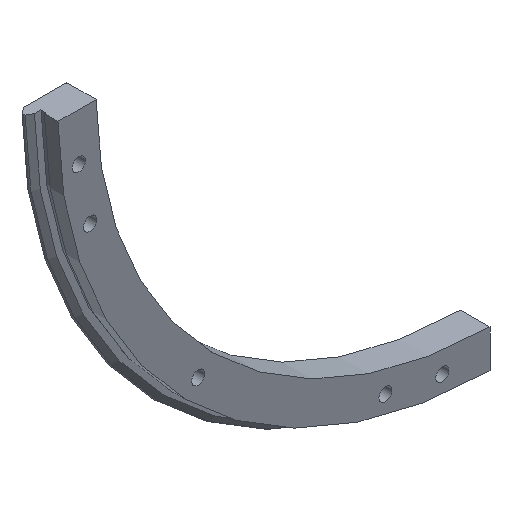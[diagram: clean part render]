
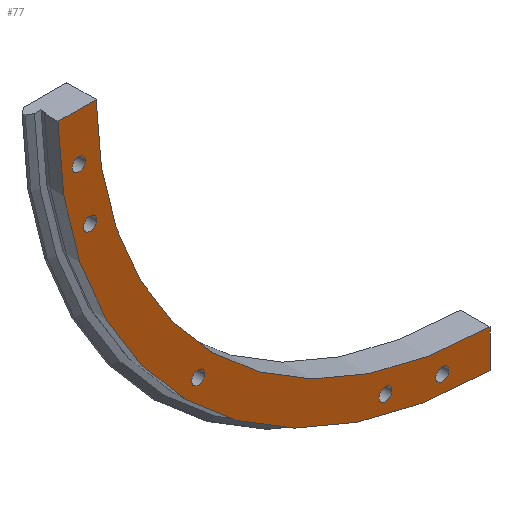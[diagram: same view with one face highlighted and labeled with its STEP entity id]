
A CAD part, isometric view. The second image highlights one B-rep face of the part: STEP entity #77.
In plain terms, the highlighted planar face has unit normal (0, -1, 0).
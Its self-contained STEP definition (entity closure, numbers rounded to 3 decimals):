
#77 = ADVANCED_FACE( '', ( #107, #108, #109, #110, #111, #112 ), #113, .T. );
#107 = FACE_BOUND( '', #186, .T. );
#108 = FACE_BOUND( '', #187, .T. );
#109 = FACE_BOUND( '', #188, .T. );
#110 = FACE_BOUND( '', #189, .T. );
#111 = FACE_BOUND( '', #190, .T. );
#112 = FACE_OUTER_BOUND( '', #191, .T. );
#113 = PLANE( '', #192 );
#186 = EDGE_LOOP( '', ( #281 ) );
#187 = EDGE_LOOP( '', ( #282 ) );
#188 = EDGE_LOOP( '', ( #283 ) );
#189 = EDGE_LOOP( '', ( #284 ) );
#190 = EDGE_LOOP( '', ( #285 ) );
#191 = EDGE_LOOP( '', ( #286, #287, #288, #289 ) );
#192 = AXIS2_PLACEMENT_3D( '', #290, #291, #292 );
#281 = ORIENTED_EDGE( '', *, *, #455, .F. );
#282 = ORIENTED_EDGE( '', *, *, #456, .F. );
#283 = ORIENTED_EDGE( '', *, *, #457, .F. );
#284 = ORIENTED_EDGE( '', *, *, #458, .F. );
#285 = ORIENTED_EDGE( '', *, *, #459, .F. );
#286 = ORIENTED_EDGE( '', *, *, #460, .F. );
#287 = ORIENTED_EDGE( '', *, *, #461, .T. );
#288 = ORIENTED_EDGE( '', *, *, #462, .T. );
#289 = ORIENTED_EDGE( '', *, *, #442, .T. );
#290 = CARTESIAN_POINT( '', ( -167., 0., 0. ) );
#291 = DIRECTION( '', ( 0., -1., 0. ) );
#292 = DIRECTION( '', ( 0., 0., -1. ) );
#442 = EDGE_CURVE( '', #492, #493, #494, .T. );
#455 = EDGE_CURVE( '', #517, #517, #518, .T. );
#456 = EDGE_CURVE( '', #519, #519, #520, .T. );
#457 = EDGE_CURVE( '', #521, #521, #522, .T. );
#458 = EDGE_CURVE( '', #523, #523, #524, .T. );
#459 = EDGE_CURVE( '', #525, #525, #526, .T. );
#460 = EDGE_CURVE( '', #527, #493, #528, .T. );
#461 = EDGE_CURVE( '', #527, #529, #530, .T. );
#462 = EDGE_CURVE( '', #529, #492, #531, .T. );
#492 = VERTEX_POINT( '', #582 );
#493 = VERTEX_POINT( '', #583 );
#494 = LINE( '', #584, #585 );
#517 = VERTEX_POINT( '', #638 );
#518 = CIRCLE( '', #639, 2.75 );
#519 = VERTEX_POINT( '', #640 );
#520 = CIRCLE( '', #641, 2.75 );
#521 = VERTEX_POINT( '', #642 );
#522 = CIRCLE( '', #643, 2.75 );
#523 = VERTEX_POINT( '', #644 );
#524 = CIRCLE( '', #645, 2.75 );
#525 = VERTEX_POINT( '', #646 );
#526 = CIRCLE( '', #647, 2.75 );
#527 = VERTEX_POINT( '', #648 );
#528 = CIRCLE( '', #649, 167. );
#529 = VERTEX_POINT( '', #650 );
#530 = LINE( '', #651, #652 );
#531 = CIRCLE( '', #653, 183. );
#582 = CARTESIAN_POINT( '', ( -1.5, 0., -182.994 ) );
#583 = CARTESIAN_POINT( '', ( -1.5, 0., -166.993 ) );
#584 = CARTESIAN_POINT( '', ( -1.5, 0., -193. ) );
#585 = VECTOR( '', #716, 1000. );
#638 = CARTESIAN_POINT( '', ( -124.097, 0., -126.847 ) );
#639 = AXIS2_PLACEMENT_3D( '', #729, #730, #731 );
#640 = CARTESIAN_POINT( '', ( -169.52, 0., -48.173 ) );
#641 = AXIS2_PLACEMENT_3D( '', #732, #733, #734 );
#642 = CARTESIAN_POINT( '', ( -174.178, 0., -24.251 ) );
#643 = AXIS2_PLACEMENT_3D( '', #735, #736, #737 );
#644 = CARTESIAN_POINT( '', ( -45.423, 0., -172.27 ) );
#645 = AXIS2_PLACEMENT_3D( '', #738, #739, #740 );
#646 = CARTESIAN_POINT( '', ( -21.501, 0., -176.928 ) );
#647 = AXIS2_PLACEMENT_3D( '', #741, #742, #743 );
#648 = CARTESIAN_POINT( '', ( -166.993, 0., -1.5 ) );
#649 = AXIS2_PLACEMENT_3D( '', #744, #745, #746 );
#650 = CARTESIAN_POINT( '', ( -182.994, 0., -1.5 ) );
#651 = CARTESIAN_POINT( '', ( -1.5, 0., -1.5 ) );
#652 = VECTOR( '', #747, 1000. );
#653 = AXIS2_PLACEMENT_3D( '', #748, #749, #750 );
#716 = DIRECTION( '', ( 0., 0., 1. ) );
#729 = CARTESIAN_POINT( '', ( -124.097, 0., -124.097 ) );
#730 = DIRECTION( '', ( 0., -1., 0. ) );
#731 = DIRECTION( '', ( 0., 0., -1. ) );
#732 = CARTESIAN_POINT( '', ( -169.52, 0., -45.423 ) );
#733 = DIRECTION( '', ( 0., -1., 0. ) );
#734 = DIRECTION( '', ( 0., 0., -1. ) );
#735 = CARTESIAN_POINT( '', ( -174.178, 0., -21.501 ) );
#736 = DIRECTION( '', ( 0., -1., 0. ) );
#737 = DIRECTION( '', ( 0., 0., -1. ) );
#738 = CARTESIAN_POINT( '', ( -45.423, 0., -169.52 ) );
#739 = DIRECTION( '', ( 0., -1., 0. ) );
#740 = DIRECTION( '', ( 0., 0., -1. ) );
#741 = CARTESIAN_POINT( '', ( -21.501, 0., -174.178 ) );
#742 = DIRECTION( '', ( 0., -1., 0. ) );
#743 = DIRECTION( '', ( 0., 0., -1. ) );
#744 = CARTESIAN_POINT( '', ( 0., 0., 0. ) );
#745 = DIRECTION( '', ( 0., -1., 0. ) );
#746 = DIRECTION( '', ( 0., 0., -1. ) );
#747 = DIRECTION( '', ( -1., 0., 0. ) );
#748 = CARTESIAN_POINT( '', ( 0., 0., 0. ) );
#749 = DIRECTION( '', ( 0., -1., 0. ) );
#750 = DIRECTION( '', ( 0., 0., -1. ) );
